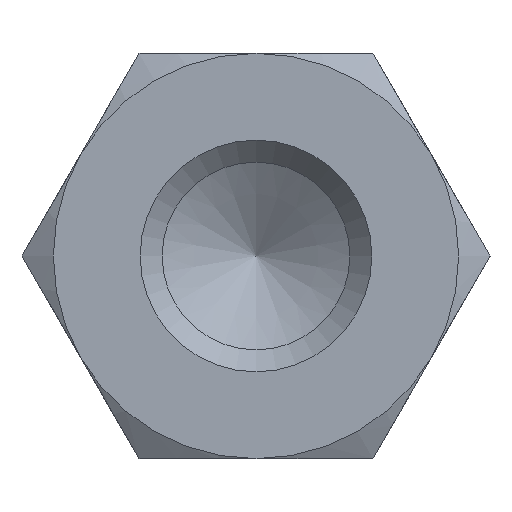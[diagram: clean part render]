
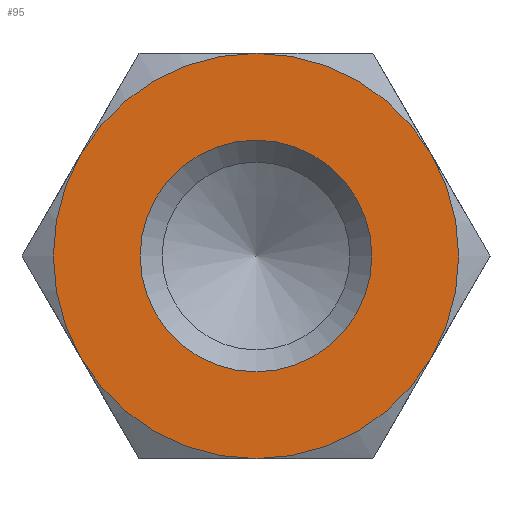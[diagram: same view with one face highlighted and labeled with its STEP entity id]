
A CAD part, left-side view. The second image highlights one B-rep face of the part: STEP entity #95.
In plain terms, the highlighted planar face has unit normal (-1, 0, 0).
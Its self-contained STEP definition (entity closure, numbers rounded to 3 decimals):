
#95 = ADVANCED_FACE( '', ( #147, #148 ), #149, .F. );
#147 = FACE_OUTER_BOUND( '', #206, .T. );
#148 = FACE_BOUND( '', #207, .T. );
#149 = PLANE( '', #208 );
#206 = EDGE_LOOP( '', ( #356, #357, #358, #359, #360, #361 ) );
#207 = EDGE_LOOP( '', ( #362 ) );
#208 = AXIS2_PLACEMENT_3D( '', #363, #364, #365 );
#356 = ORIENTED_EDGE( '', *, *, #440, .F. );
#357 = ORIENTED_EDGE( '', *, *, #425, .F. );
#358 = ORIENTED_EDGE( '', *, *, #441, .F. );
#359 = ORIENTED_EDGE( '', *, *, #437, .F. );
#360 = ORIENTED_EDGE( '', *, *, #442, .F. );
#361 = ORIENTED_EDGE( '', *, *, #443, .F. );
#362 = ORIENTED_EDGE( '', *, *, #439, .T. );
#363 = CARTESIAN_POINT( '', ( -45., 0., 0. ) );
#364 = DIRECTION( '', ( 1., 0., 0. ) );
#365 = DIRECTION( '', ( 0., 0., -1. ) );
#425 = EDGE_CURVE( '', #495, #493, #497, .T. );
#437 = EDGE_CURVE( '', #447, #506, #513, .T. );
#439 = EDGE_CURVE( '', #516, #516, #517, .T. );
#440 = EDGE_CURVE( '', #493, #486, #518, .T. );
#441 = EDGE_CURVE( '', #506, #495, #519, .T. );
#442 = EDGE_CURVE( '', #481, #447, #520, .T. );
#443 = EDGE_CURVE( '', #486, #481, #521, .T. );
#447 = VERTEX_POINT( '', #525 );
#481 = VERTEX_POINT( '', #595 );
#486 = VERTEX_POINT( '', #611 );
#493 = VERTEX_POINT( '', #632 );
#495 = VERTEX_POINT( '', #637 );
#497 = CIRCLE( '', #644, 3.5 );
#506 = VERTEX_POINT( '', #670 );
#513 = CIRCLE( '', #701, 3.5 );
#516 = VERTEX_POINT( '', #704 );
#517 = CIRCLE( '', #705, 2. );
#518 = CIRCLE( '', #706, 3.5 );
#519 = CIRCLE( '', #707, 3.5 );
#520 = CIRCLE( '', #708, 3.5 );
#521 = CIRCLE( '', #709, 3.5 );
#525 = CARTESIAN_POINT( '', ( -45., -3.031, 1.75 ) );
#595 = CARTESIAN_POINT( '', ( -45., 0., 3.5 ) );
#611 = CARTESIAN_POINT( '', ( -45., 3.031, 1.75 ) );
#632 = CARTESIAN_POINT( '', ( -45., 3.031, -1.75 ) );
#637 = CARTESIAN_POINT( '', ( -45., 0., -3.5 ) );
#644 = AXIS2_PLACEMENT_3D( '', #744, #745, #746 );
#670 = CARTESIAN_POINT( '', ( -45., -3.031, -1.75 ) );
#701 = AXIS2_PLACEMENT_3D( '', #749, #750, #751 );
#704 = CARTESIAN_POINT( '', ( -45., 0., -2. ) );
#705 = AXIS2_PLACEMENT_3D( '', #755, #756, #757 );
#706 = AXIS2_PLACEMENT_3D( '', #758, #759, #760 );
#707 = AXIS2_PLACEMENT_3D( '', #761, #762, #763 );
#708 = AXIS2_PLACEMENT_3D( '', #764, #765, #766 );
#709 = AXIS2_PLACEMENT_3D( '', #767, #768, #769 );
#744 = CARTESIAN_POINT( '', ( -45., 0., 0. ) );
#745 = DIRECTION( '', ( 1., 0., 0. ) );
#746 = DIRECTION( '', ( 0., 0., -1. ) );
#749 = CARTESIAN_POINT( '', ( -45., 0., 0. ) );
#750 = DIRECTION( '', ( 1., 0., 0. ) );
#751 = DIRECTION( '', ( 0., 0., -1. ) );
#755 = CARTESIAN_POINT( '', ( -45., 0., 0. ) );
#756 = DIRECTION( '', ( 1., 0., 0. ) );
#757 = DIRECTION( '', ( 0., 0., -1. ) );
#758 = CARTESIAN_POINT( '', ( -45., 0., 0. ) );
#759 = DIRECTION( '', ( 1., 0., 0. ) );
#760 = DIRECTION( '', ( 0., 0., -1. ) );
#761 = CARTESIAN_POINT( '', ( -45., 0., 0. ) );
#762 = DIRECTION( '', ( 1., 0., 0. ) );
#763 = DIRECTION( '', ( 0., 0., -1. ) );
#764 = CARTESIAN_POINT( '', ( -45., 0., 0. ) );
#765 = DIRECTION( '', ( 1., 0., 0. ) );
#766 = DIRECTION( '', ( 0., 0., -1. ) );
#767 = CARTESIAN_POINT( '', ( -45., 0., 0. ) );
#768 = DIRECTION( '', ( 1., 0., 0. ) );
#769 = DIRECTION( '', ( 0., 0., -1. ) );
